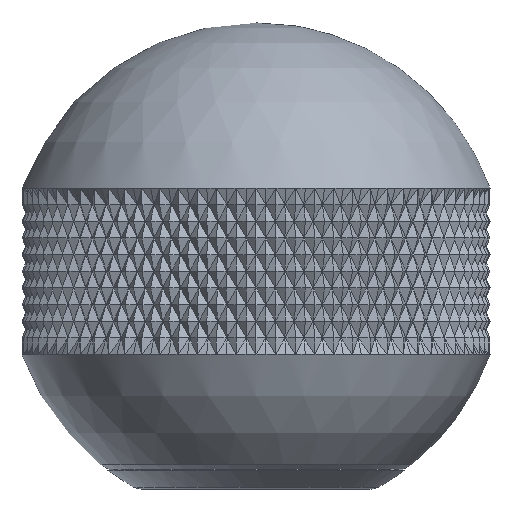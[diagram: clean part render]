
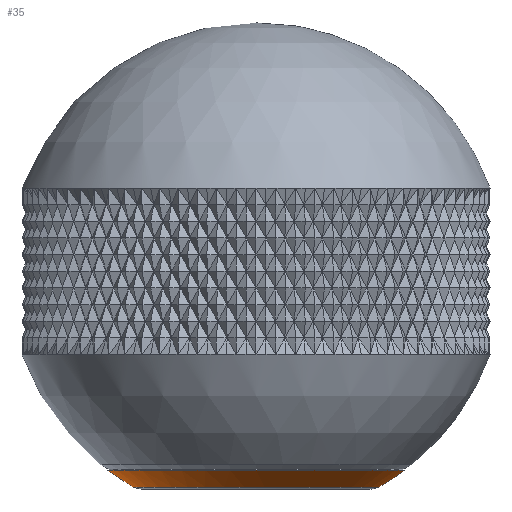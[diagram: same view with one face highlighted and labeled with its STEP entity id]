
A CAD part, front view. The second image highlights one B-rep face of the part: STEP entity #35.
In plain terms, the highlighted spherical face has radius 12.5 mm.
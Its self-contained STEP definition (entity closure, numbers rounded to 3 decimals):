
#35 = ADVANCED_FACE('',(#36),#51,.T.);
#36 = FACE_BOUND('',#37,.T.);
#37 = EDGE_LOOP('',(#38,#69,#165,#166));
#38 = ORIENTED_EDGE('',*,*,#39,.F.);
#39 = EDGE_CURVE('',#40,#42,#44,.T.);
#40 = VERTEX_POINT('',#41);
#41 = CARTESIAN_POINT('',(6.175,0.,0.097));
#42 = VERTEX_POINT('',#43);
#43 = CARTESIAN_POINT('',(7.482,0.,
    0.952));
#44 = SEAM_CURVE('',#45,(#50,#62),.PCURVE_S1.);
#45 = CIRCLE('',#46,12.5);
#46 = AXIS2_PLACEMENT_3D('',#47,#48,#49);
#47 = CARTESIAN_POINT('',(0.,0.,10.966));
#48 = DIRECTION('',(0.,-1.,0.));
#49 = DIRECTION('',(1.,0.,0.));
#50 = PCURVE('',#51,#56);
#51 = SPHERICAL_SURFACE('',#52,12.5);
#52 = AXIS2_PLACEMENT_3D('',#53,#54,#55);
#53 = CARTESIAN_POINT('',(0.,0.,10.966));
#54 = DIRECTION('',(0.,0.,1.));
#55 = DIRECTION('',(1.,0.,-0.));
#56 = DEFINITIONAL_REPRESENTATION('',(#57),#61);
#57 = LINE('',#58,#59);
#58 = CARTESIAN_POINT('',(0.,-6.283));
#59 = VECTOR('',#60,1.);
#60 = DIRECTION('',(0.,1.));
#61 = ( GEOMETRIC_REPRESENTATION_CONTEXT(2) 
PARAMETRIC_REPRESENTATION_CONTEXT() REPRESENTATION_CONTEXT('2D SPACE',''
  ) );
#62 = PCURVE('',#51,#63);
#63 = DEFINITIONAL_REPRESENTATION('',(#64),#68);
#64 = LINE('',#65,#66);
#65 = CARTESIAN_POINT('',(6.283,-6.283));
#66 = VECTOR('',#67,1.);
#67 = DIRECTION('',(0.,1.));
#68 = ( GEOMETRIC_REPRESENTATION_CONTEXT(2) 
PARAMETRIC_REPRESENTATION_CONTEXT() REPRESENTATION_CONTEXT('2D SPACE',''
  ) );
#69 = ORIENTED_EDGE('',*,*,#70,.T.);
#70 = EDGE_CURVE('',#40,#40,#71,.T.);
#71 = SURFACE_CURVE('',#72,(#93,#117),.PCURVE_S1.);
#72 = B_SPLINE_CURVE_WITH_KNOTS('',10,(#73,#74,#75,#76,#77,#78,#79,#80,
    #81,#82,#83,#84,#85,#86,#87,#88,#89,#90,#91,#92),.UNSPECIFIED.,.T.,
  .F.,(11,9,11),(0.,18.85,37.699),
  .UNSPECIFIED.);
#73 = CARTESIAN_POINT('',(6.175,0.,0.097));
#74 = CARTESIAN_POINT('',(6.175,1.912,
    0.097));
#75 = CARTESIAN_POINT('',(5.517,3.853,
    0.097));
#76 = CARTESIAN_POINT('',(4.169,5.55,
    0.097));
#77 = CARTESIAN_POINT('',(2.235,6.706,
    0.097));
#78 = CARTESIAN_POINT('',(-0.002,7.1,
    0.097));
#79 = CARTESIAN_POINT('',(-2.23,6.697,
    0.097));
#80 = CARTESIAN_POINT('',(-4.144,5.553,
    0.097));
#81 = CARTESIAN_POINT('',(-5.497,3.88,
    0.097));
#82 = CARTESIAN_POINT('',(-6.175,1.94,
    0.097));
#83 = CARTESIAN_POINT('',(-6.175,-1.94,
    0.097));
#84 = CARTESIAN_POINT('',(-5.497,-3.88,
    0.097));
#85 = CARTESIAN_POINT('',(-4.144,-5.553,
    0.097));
#86 = CARTESIAN_POINT('',(-2.23,-6.697,
    0.097));
#87 = CARTESIAN_POINT('',(-0.002,-7.1,
    0.097));
#88 = CARTESIAN_POINT('',(2.235,-6.706,
    0.097));
#89 = CARTESIAN_POINT('',(4.169,-5.55,
    0.097));
#90 = CARTESIAN_POINT('',(5.517,-3.853,
    0.097));
#91 = CARTESIAN_POINT('',(6.175,-1.912,
    0.097));
#92 = CARTESIAN_POINT('',(6.175,0.,
    0.097));
#93 = PCURVE('',#51,#94);
#94 = DEFINITIONAL_REPRESENTATION('',(#95),#116);
#95 = B_SPLINE_CURVE_WITH_KNOTS('',10,(#96,#97,#98,#99,#100,#101,#102,
    #103,#104,#105,#106,#107,#108,#109,#110,#111,#112,#113,#114,#115),
  .UNSPECIFIED.,.F.,.F.,(11,9,11),(0.,18.85,
    37.699),.UNSPECIFIED.);
#96 = CARTESIAN_POINT('',(0.,-1.054));
#97 = CARTESIAN_POINT('',(0.31,-1.054));
#98 = CARTESIAN_POINT('',(0.624,-1.054));
#99 = CARTESIAN_POINT('',(0.94,-1.054));
#100 = CARTESIAN_POINT('',(1.256,-1.054));
#101 = CARTESIAN_POINT('',(1.571,-1.054));
#102 = CARTESIAN_POINT('',(1.885,-1.054));
#103 = CARTESIAN_POINT('',(2.199,-1.054));
#104 = CARTESIAN_POINT('',(2.513,-1.054));
#105 = CARTESIAN_POINT('',(2.827,-1.054));
#106 = CARTESIAN_POINT('',(3.456,-1.054));
#107 = CARTESIAN_POINT('',(3.77,-1.054));
#108 = CARTESIAN_POINT('',(4.084,-1.054));
#109 = CARTESIAN_POINT('',(4.398,-1.054));
#110 = CARTESIAN_POINT('',(4.713,-1.054));
#111 = CARTESIAN_POINT('',(5.027,-1.054));
#112 = CARTESIAN_POINT('',(5.343,-1.054));
#113 = CARTESIAN_POINT('',(5.659,-1.054));
#114 = CARTESIAN_POINT('',(5.974,-1.054));
#115 = CARTESIAN_POINT('',(6.283,-1.054));
#116 = ( GEOMETRIC_REPRESENTATION_CONTEXT(2) 
PARAMETRIC_REPRESENTATION_CONTEXT() REPRESENTATION_CONTEXT('2D SPACE',''
  ) );
#117 = PCURVE('',#118,#159);
#118 = B_SPLINE_SURFACE_WITH_KNOTS('',1,10,(
    (#119,#120,#121,#122,#123,#124,#125,#126,#127,#128,#129,#130,#131
      ,#132,#133,#134,#135,#136,#137,#138)
    ,(#139,#140,#141,#142,#143,#144,#145,#146,#147,#148,#149,#150,#151
      ,#152,#153,#154,#155,#156,#157,#158
    )),.UNSPECIFIED.,.F.,.T.,.F.,(2,2),(11,9,11),(0.,37.699),(
    0.,18.85,37.699),.UNSPECIFIED.);
#119 = CARTESIAN_POINT('',(6.175,0.,0.097));
#120 = CARTESIAN_POINT('',(6.175,1.912,
    0.097));
#121 = CARTESIAN_POINT('',(5.517,3.853,
    0.097));
#122 = CARTESIAN_POINT('',(4.169,5.55,
    0.097));
#123 = CARTESIAN_POINT('',(2.235,6.706,
    0.097));
#124 = CARTESIAN_POINT('',(-0.002,7.1,
    0.097));
#125 = CARTESIAN_POINT('',(-2.23,6.697,
    0.097));
#126 = CARTESIAN_POINT('',(-4.144,5.553,
    0.097));
#127 = CARTESIAN_POINT('',(-5.497,3.88,
    0.097));
#128 = CARTESIAN_POINT('',(-6.175,1.94,
    0.097));
#129 = CARTESIAN_POINT('',(-6.175,-1.94,
    0.097));
#130 = CARTESIAN_POINT('',(-5.497,-3.88,
    0.097));
#131 = CARTESIAN_POINT('',(-4.144,-5.553,
    0.097));
#132 = CARTESIAN_POINT('',(-2.23,-6.697,
    0.097));
#133 = CARTESIAN_POINT('',(-0.002,-7.1,
    0.097));
#134 = CARTESIAN_POINT('',(2.235,-6.706,
    0.097));
#135 = CARTESIAN_POINT('',(4.169,-5.55,
    0.097));
#136 = CARTESIAN_POINT('',(5.517,-3.853,
    0.097));
#137 = CARTESIAN_POINT('',(6.175,-1.912,
    0.097));
#138 = CARTESIAN_POINT('',(6.175,0.,
    0.097));
#139 = CARTESIAN_POINT('',(5.8,0.,0.));
#140 = CARTESIAN_POINT('',(5.8,1.796,0.));
#141 = CARTESIAN_POINT('',(5.182,3.619,0.));
#142 = CARTESIAN_POINT('',(3.916,5.213,0.));
#143 = CARTESIAN_POINT('',(2.1,6.299,0.));
#144 = CARTESIAN_POINT('',(-0.002,6.67,0.));
#145 = CARTESIAN_POINT('',(-2.095,6.291,0.));
#146 = CARTESIAN_POINT('',(-3.892,5.216,0.));
#147 = CARTESIAN_POINT('',(-5.164,3.644,0.));
#148 = CARTESIAN_POINT('',(-5.8,1.822,0.));
#149 = CARTESIAN_POINT('',(-5.8,-1.822,0.));
#150 = CARTESIAN_POINT('',(-5.164,-3.644,0.));
#151 = CARTESIAN_POINT('',(-3.892,-5.216,0.));
#152 = CARTESIAN_POINT('',(-2.095,-6.291,0.));
#153 = CARTESIAN_POINT('',(-0.002,-6.67,0.));
#154 = CARTESIAN_POINT('',(2.1,-6.299,0.));
#155 = CARTESIAN_POINT('',(3.916,-5.213,0.));
#156 = CARTESIAN_POINT('',(5.182,-3.619,0.));
#157 = CARTESIAN_POINT('',(5.8,-1.796,0.));
#158 = CARTESIAN_POINT('',(5.8,0.,0.));
#159 = DEFINITIONAL_REPRESENTATION('',(#160),#164);
#160 = LINE('',#161,#162);
#161 = CARTESIAN_POINT('',(0.,0.));
#162 = VECTOR('',#163,1.);
#163 = DIRECTION('',(0.,1.));
#164 = ( GEOMETRIC_REPRESENTATION_CONTEXT(2) 
PARAMETRIC_REPRESENTATION_CONTEXT() REPRESENTATION_CONTEXT('2D SPACE',''
  ) );
#165 = ORIENTED_EDGE('',*,*,#39,.T.);
#166 = ORIENTED_EDGE('',*,*,#167,.F.);
#167 = EDGE_CURVE('',#42,#42,#168,.T.);
#168 = SURFACE_CURVE('',#169,(#174,#181),.PCURVE_S1.);
#169 = CIRCLE('',#170,7.482);
#170 = AXIS2_PLACEMENT_3D('',#171,#172,#173);
#171 = CARTESIAN_POINT('',(0.,0.,0.952));
#172 = DIRECTION('',(0.,0.,1.));
#173 = DIRECTION('',(0.,-1.,0.));
#174 = PCURVE('',#51,#175);
#175 = DEFINITIONAL_REPRESENTATION('',(#176),#180);
#176 = LINE('',#177,#178);
#177 = CARTESIAN_POINT('',(-1.571,-0.929));
#178 = VECTOR('',#179,1.);
#179 = DIRECTION('',(1.,0.));
#180 = ( GEOMETRIC_REPRESENTATION_CONTEXT(2) 
PARAMETRIC_REPRESENTATION_CONTEXT() REPRESENTATION_CONTEXT('2D SPACE',''
  ) );
#181 = PCURVE('',#182,#187);
#182 = CONICAL_SURFACE('',#183,7.845,1.064);
#183 = AXIS2_PLACEMENT_3D('',#184,#185,#186);
#184 = CARTESIAN_POINT('',(0.,0.,0.75));
#185 = DIRECTION('',(-0.,-0.,-1.));
#186 = DIRECTION('',(1.,0.,-0.));
#187 = DEFINITIONAL_REPRESENTATION('',(#188),#192);
#188 = LINE('',#189,#190);
#189 = CARTESIAN_POINT('',(1.571,-0.202));
#190 = VECTOR('',#191,1.);
#191 = DIRECTION('',(-1.,-0.));
#192 = ( GEOMETRIC_REPRESENTATION_CONTEXT(2) 
PARAMETRIC_REPRESENTATION_CONTEXT() REPRESENTATION_CONTEXT('2D SPACE',''
  ) );
